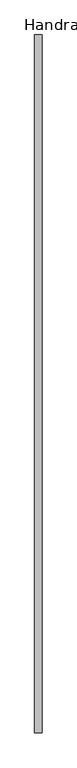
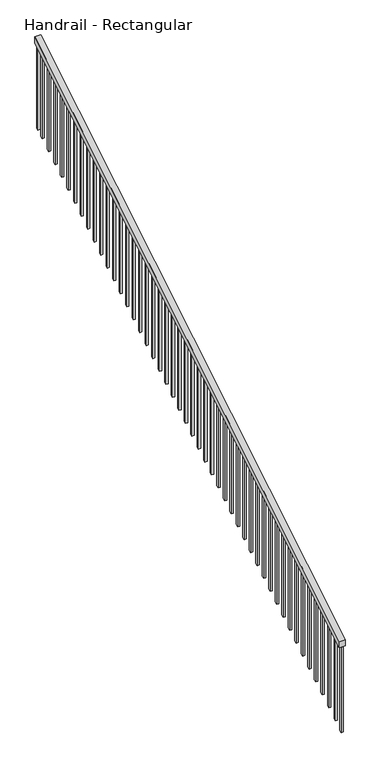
"""IFC4 building model written with IfcOpenShell, lengths in millimetres: railing geometry, Handrail - Rectangular."""

from ifc_helpers import new_model, si_unit, frame, origin, place, context, project, spatial, polyline, outline, extrude, source, transform, mapped, element, save


def handrail_rectangular_7fb33515(model_context):
    return source(origin(), model_context, "Body", "SweptSolid", [
        extrude(outline(polyline([(-7727.6411799, 1024.3318731), (-7727.6411799, 1083.7333333), (-2977.8411799, 3962.4), (-2977.8411799, 3902.9985397), (-7727.6411799, 1024.3318731)])), frame((-1190.9500398, 0.0, 0.0), z_axis=(1.0, 0.0, 0.0), x_axis=(0.0, 1.0, 0.0)), (0.0, 0.0, 1.0), 50.8),
        extrude(outline(polyline([(-3063.5661799, 3851.0439943), (-3044.5161799, 3862.5894488), (-3044.5161799, 3050.3720877), (-3063.5661799, 3038.8266332), (-3063.5661799, 3851.0439943)])), frame((-1175.0750398, 0.0, 0.0), z_axis=(1.0, 0.0, 0.0), x_axis=(0.0, 1.0, 0.0)), (0.0, 0.0, 1.0), 19.05),
        extrude(outline(polyline([(-3165.1661799, 3789.4682367), (-3146.1161799, 3801.0136913), (-3146.1161799, 2988.7963301), (-3165.1661799, 2977.2508756), (-3165.1661799, 3789.4682367)])), frame((-1175.0750398, 0.0, 0.0), z_axis=(1.0, 0.0, 0.0), x_axis=(0.0, 1.0, 0.0)), (0.0, 0.0, 1.0), 19.05),
        extrude(outline(polyline([(-3266.7661799, 3727.8924791), (-3247.7161799, 3739.4379337), (-3247.7161799, 2927.2205726), (-3266.7661799, 2915.675118), (-3266.7661799, 3727.8924791)])), frame((-1175.0750398, 0.0, 0.0), z_axis=(1.0, 0.0, 0.0), x_axis=(0.0, 1.0, 0.0)), (0.0, 0.0, 1.0), 19.05),
        extrude(outline(polyline([(-3368.3661799, 3666.3167216), (-3349.3161799, 3677.8621761), (-3349.3161799, 2865.644815), (-3368.3661799, 2854.0993604), (-3368.3661799, 3666.3167216)])), frame((-1175.0750398, 0.0, 0.0), z_axis=(1.0, 0.0, 0.0), x_axis=(0.0, 1.0, 0.0)), (0.0, 0.0, 1.0), 19.05),
        extrude(outline(polyline([(-3469.9661799, 3604.740964), (-3450.9161799, 3616.2864185), (-3450.9161799, 2804.0690574), (-3469.9661799, 2792.5236029), (-3469.9661799, 3604.740964)])), frame((-1175.0750398, 0.0, 0.0), z_axis=(1.0, 0.0, 0.0), x_axis=(0.0, 1.0, 0.0)), (0.0, 0.0, 1.0), 19.05),
        extrude(outline(polyline([(-3571.5661799, 3543.1652064), (-3552.5161799, 3554.710661), (-3552.5161799, 2742.4932998), (-3571.5661799, 2730.9478453), (-3571.5661799, 3543.1652064)])), frame((-1175.0750398, 0.0, 0.0), z_axis=(1.0, 0.0, 0.0), x_axis=(0.0, 1.0, 0.0)), (0.0, 0.0, 1.0), 19.05),
        extrude(outline(polyline([(-3673.1661799, 3481.5894488), (-3654.1161799, 3493.1349034), (-3654.1161799, 2680.9175423), (-3673.1661799, 2669.3720877), (-3673.1661799, 3481.5894488)])), frame((-1175.0750398, 0.0, 0.0), z_axis=(1.0, 0.0, 0.0), x_axis=(0.0, 1.0, 0.0)), (0.0, 0.0, 1.0), 19.05),
        extrude(outline(polyline([(-3774.7661799, 3420.0136913), (-3755.7161799, 3431.5591458), (-3755.7161799, 2619.3417847), (-3774.7661799, 2607.7963301), (-3774.7661799, 3420.0136913)])), frame((-1175.0750398, 0.0, 0.0), z_axis=(1.0, 0.0, 0.0), x_axis=(0.0, 1.0, 0.0)), (0.0, 0.0, 1.0), 19.05),
        extrude(outline(polyline([(-3876.3661799, 3358.4379337), (-3857.3161799, 3369.9833882), (-3857.3161799, 2557.7660271), (-3876.3661799, 2546.2205726), (-3876.3661799, 3358.4379337)])), frame((-1175.0750398, 0.0, 0.0), z_axis=(1.0, 0.0, 0.0), x_axis=(0.0, 1.0, 0.0)), (0.0, 0.0, 1.0), 19.05),
        extrude(outline(polyline([(-3977.9661799, 3296.8621761), (-3958.9161799, 3308.4076307), (-3958.9161799, 2496.1902695), (-3977.9661799, 2484.644815), (-3977.9661799, 3296.8621761)])), frame((-1175.0750398, 0.0, 0.0), z_axis=(1.0, 0.0, 0.0), x_axis=(0.0, 1.0, 0.0)), (0.0, 0.0, 1.0), 19.05),
        extrude(outline(polyline([(-4079.5661799, 3235.2864185), (-4060.5161799, 3246.8318731), (-4060.5161799, 2434.614512), (-4079.5661799, 2423.0690574), (-4079.5661799, 3235.2864185)])), frame((-1175.0750398, 0.0, 0.0), z_axis=(1.0, 0.0, 0.0), x_axis=(0.0, 1.0, 0.0)), (0.0, 0.0, 1.0), 19.05),
        extrude(outline(polyline([(-4181.1661799, 3173.710661), (-4162.1161799, 3185.2561155), (-4162.1161799, 2373.0387544), (-4181.1661799, 2361.4932998), (-4181.1661799, 3173.710661)])), frame((-1175.0750398, 0.0, 0.0), z_axis=(1.0, 0.0, 0.0), x_axis=(0.0, 1.0, 0.0)), (0.0, 0.0, 1.0), 19.05),
        extrude(outline(polyline([(-4282.7661799, 3112.1349034), (-4263.7161799, 3123.6803579), (-4263.7161799, 2311.4629968), (-4282.7661799, 2299.9175423), (-4282.7661799, 3112.1349034)])), frame((-1175.0750398, 0.0, 0.0), z_axis=(1.0, 0.0, 0.0), x_axis=(0.0, 1.0, 0.0)), (0.0, 0.0, 1.0), 19.05),
        extrude(outline(polyline([(-4384.3661799, 3050.5591458), (-4365.3161799, 3062.1046004), (-4365.3161799, 2249.8872392), (-4384.3661799, 2238.3417847), (-4384.3661799, 3050.5591458)])), frame((-1175.0750398, 0.0, 0.0), z_axis=(1.0, 0.0, 0.0), x_axis=(0.0, 1.0, 0.0)), (0.0, 0.0, 1.0), 19.05),
        extrude(outline(polyline([(-4485.9661799, 2988.9833882), (-4466.9161799, 3000.5288428), (-4466.9161799, 2188.3114817), (-4485.9661799, 2176.7660271), (-4485.9661799, 2988.9833882)])), frame((-1175.0750398, 0.0, 0.0), z_axis=(1.0, 0.0, 0.0), x_axis=(0.0, 1.0, 0.0)), (0.0, 0.0, 1.0), 19.05),
        extrude(outline(polyline([(-4587.5661799, 2927.4076307), (-4568.5161799, 2938.9530852), (-4568.5161799, 2126.7357241), (-4587.5661799, 2115.1902695), (-4587.5661799, 2927.4076307)])), frame((-1175.0750398, 0.0, 0.0), z_axis=(1.0, 0.0, 0.0), x_axis=(0.0, 1.0, 0.0)), (0.0, 0.0, 1.0), 19.05),
        extrude(outline(polyline([(-4689.1661799, 2865.8318731), (-4670.1161799, 2877.3773276), (-4670.1161799, 2065.1599665), (-4689.1661799, 2053.614512), (-4689.1661799, 2865.8318731)])), frame((-1175.0750398, 0.0, 0.0), z_axis=(1.0, 0.0, 0.0), x_axis=(0.0, 1.0, 0.0)), (0.0, 0.0, 1.0), 19.05),
        extrude(outline(polyline([(-4790.7661799, 2804.2561155), (-4771.7161799, 2815.80157), (-4771.7161799, 2003.5842089), (-4790.7661799, 1992.0387544), (-4790.7661799, 2804.2561155)])), frame((-1175.0750398, 0.0, 0.0), z_axis=(1.0, 0.0, 0.0), x_axis=(0.0, 1.0, 0.0)), (0.0, 0.0, 1.0), 19.05),
        extrude(outline(polyline([(-4892.3661799, 2742.6803579), (-4873.3161799, 2754.2258125), (-4873.3161799, 1942.0084514), (-4892.3661799, 1930.4629968), (-4892.3661799, 2742.6803579)])), frame((-1175.0750398, 0.0, 0.0), z_axis=(1.0, 0.0, 0.0), x_axis=(0.0, 1.0, 0.0)), (0.0, 0.0, 1.0), 19.05),
        extrude(outline(polyline([(-4993.9661799, 2681.1046004), (-4974.9161799, 2692.6500549), (-4974.9161799, 1880.4326938), (-4993.9661799, 1868.8872392), (-4993.9661799, 2681.1046004)])), frame((-1175.0750398, 0.0, 0.0), z_axis=(1.0, 0.0, 0.0), x_axis=(0.0, 1.0, 0.0)), (0.0, 0.0, 1.0), 19.05),
        extrude(outline(polyline([(-5095.5661799, 2619.5288428), (-5076.5161799, 2631.0742973), (-5076.5161799, 1818.8569362), (-5095.5661799, 1807.3114817), (-5095.5661799, 2619.5288428)])), frame((-1175.0750398, 0.0, 0.0), z_axis=(1.0, 0.0, 0.0), x_axis=(0.0, 1.0, 0.0)), (0.0, 0.0, 1.0), 19.05),
        extrude(outline(polyline([(-5197.1661799, 2557.9530852), (-5178.1161799, 2569.4985397), (-5178.1161799, 1757.2811786), (-5197.1661799, 1745.7357241), (-5197.1661799, 2557.9530852)])), frame((-1175.0750398, 0.0, 0.0), z_axis=(1.0, 0.0, 0.0), x_axis=(0.0, 1.0, 0.0)), (0.0, 0.0, 1.0), 19.05),
        extrude(outline(polyline([(-5298.7661799, 2496.3773276), (-5279.7161799, 2507.9227822), (-5279.7161799, 1695.7054211), (-5298.7661799, 1684.1599665), (-5298.7661799, 2496.3773276)])), frame((-1175.0750398, 0.0, 0.0), z_axis=(1.0, 0.0, 0.0), x_axis=(0.0, 1.0, 0.0)), (0.0, 0.0, 1.0), 19.05),
        extrude(outline(polyline([(-5400.3661799, 2434.80157), (-5381.3161799, 2446.3470246), (-5381.3161799, 1634.1296635), (-5400.3661799, 1622.5842089), (-5400.3661799, 2434.80157)])), frame((-1175.0750398, 0.0, 0.0), z_axis=(1.0, 0.0, 0.0), x_axis=(0.0, 1.0, 0.0)), (0.0, 0.0, 1.0), 19.05),
        extrude(outline(polyline([(-5501.9661799, 2373.2258125), (-5482.9161799, 2384.771267), (-5482.9161799, 1572.5539059), (-5501.9661799, 1561.0084514), (-5501.9661799, 2373.2258125)])), frame((-1175.0750398, 0.0, 0.0), z_axis=(1.0, 0.0, 0.0), x_axis=(0.0, 1.0, 0.0)), (0.0, 0.0, 1.0), 19.05),
        extrude(outline(polyline([(-5603.5661799, 2311.6500549), (-5584.5161799, 2323.1955094), (-5584.5161799, 1510.9781483), (-5603.5661799, 1499.4326938), (-5603.5661799, 2311.6500549)])), frame((-1175.0750398, 0.0, 0.0), z_axis=(1.0, 0.0, 0.0), x_axis=(0.0, 1.0, 0.0)), (0.0, 0.0, 1.0), 19.05),
        extrude(outline(polyline([(-5705.1661799, 2250.0742973), (-5686.1161799, 2261.6197519), (-5686.1161799, 1449.4023907), (-5705.1661799, 1437.8569362), (-5705.1661799, 2250.0742973)])), frame((-1175.0750398, 0.0, 0.0), z_axis=(1.0, 0.0, 0.0), x_axis=(0.0, 1.0, 0.0)), (0.0, 0.0, 1.0), 19.05),
        extrude(outline(polyline([(-5806.7661799, 2188.4985397), (-5787.7161799, 2200.0439943), (-5787.7161799, 1387.8266332), (-5806.7661799, 1376.2811786), (-5806.7661799, 2188.4985397)])), frame((-1175.0750398, 0.0, 0.0), z_axis=(1.0, 0.0, 0.0), x_axis=(0.0, 1.0, 0.0)), (0.0, 0.0, 1.0), 19.05),
        extrude(outline(polyline([(-5908.3661799, 2126.9227822), (-5889.3161799, 2138.4682367), (-5889.3161799, 1326.2508756), (-5908.3661799, 1314.7054211), (-5908.3661799, 2126.9227822)])), frame((-1175.0750398, 0.0, 0.0), z_axis=(1.0, 0.0, 0.0), x_axis=(0.0, 1.0, 0.0)), (0.0, 0.0, 1.0), 19.05),
        extrude(outline(polyline([(-6009.9661799, 2065.3470246), (-5990.9161799, 2076.8924791), (-5990.9161799, 1264.675118), (-6009.9661799, 1253.1296635), (-6009.9661799, 2065.3470246)])), frame((-1175.0750398, 0.0, 0.0), z_axis=(1.0, 0.0, 0.0), x_axis=(0.0, 1.0, 0.0)), (0.0, 0.0, 1.0), 19.05),
        extrude(outline(polyline([(-6111.5661799, 2003.771267), (-6092.5161799, 2015.3167216), (-6092.5161799, 1203.0993604), (-6111.5661799, 1191.5539059), (-6111.5661799, 2003.771267)])), frame((-1175.0750398, 0.0, 0.0), z_axis=(1.0, 0.0, 0.0), x_axis=(0.0, 1.0, 0.0)), (0.0, 0.0, 1.0), 19.05),
        extrude(outline(polyline([(-6213.1661799, 1942.1955094), (-6194.1161799, 1953.740964), (-6194.1161799, 1141.5236029), (-6213.1661799, 1129.9781483), (-6213.1661799, 1942.1955094)])), frame((-1175.0750398, 0.0, 0.0), z_axis=(1.0, 0.0, 0.0), x_axis=(0.0, 1.0, 0.0)), (0.0, 0.0, 1.0), 19.05),
        extrude(outline(polyline([(-6314.7661799, 1880.6197519), (-6295.7161799, 1892.1652064), (-6295.7161799, 1079.9478453), (-6314.7661799, 1068.4023907), (-6314.7661799, 1880.6197519)])), frame((-1175.0750398, 0.0, 0.0), z_axis=(1.0, 0.0, 0.0), x_axis=(0.0, 1.0, 0.0)), (0.0, 0.0, 1.0), 19.05),
        extrude(outline(polyline([(-6416.3661799, 1819.0439943), (-6397.3161799, 1830.5894488), (-6397.3161799, 1018.3720877), (-6416.3661799, 1006.8266332), (-6416.3661799, 1819.0439943)])), frame((-1175.0750398, 0.0, 0.0), z_axis=(1.0, 0.0, 0.0), x_axis=(0.0, 1.0, 0.0)), (0.0, 0.0, 1.0), 19.05),
        extrude(outline(polyline([(-6517.9661799, 1757.4682367), (-6498.9161799, 1769.0136913), (-6498.9161799, 956.7963301), (-6517.9661799, 945.2508756), (-6517.9661799, 1757.4682367)])), frame((-1175.0750398, 0.0, 0.0), z_axis=(1.0, 0.0, 0.0), x_axis=(0.0, 1.0, 0.0)), (0.0, 0.0, 1.0), 19.05),
        extrude(outline(polyline([(-6619.5661799, 1695.8924791), (-6600.5161799, 1707.4379337), (-6600.5161799, 895.2205726), (-6619.5661799, 883.675118), (-6619.5661799, 1695.8924791)])), frame((-1175.0750398, 0.0, 0.0), z_axis=(1.0, 0.0, 0.0), x_axis=(0.0, 1.0, 0.0)), (0.0, 0.0, 1.0), 19.05),
        extrude(outline(polyline([(-6721.1661799, 1634.3167216), (-6702.1161799, 1645.8621761), (-6702.1161799, 833.644815), (-6721.1661799, 822.0993604), (-6721.1661799, 1634.3167216)])), frame((-1175.0750398, 0.0, 0.0), z_axis=(1.0, 0.0, 0.0), x_axis=(0.0, 1.0, 0.0)), (0.0, 0.0, 1.0), 19.05),
        extrude(outline(polyline([(-6822.7661799, 1572.740964), (-6803.7161799, 1584.2864185), (-6803.7161799, 772.0690574), (-6822.7661799, 760.5236029), (-6822.7661799, 1572.740964)])), frame((-1175.0750398, 0.0, 0.0), z_axis=(1.0, 0.0, 0.0), x_axis=(0.0, 1.0, 0.0)), (0.0, 0.0, 1.0), 19.05),
        extrude(outline(polyline([(-6924.3661799, 1511.1652064), (-6905.3161799, 1522.710661), (-6905.3161799, 710.4932998), (-6924.3661799, 698.9478453), (-6924.3661799, 1511.1652064)])), frame((-1175.0750398, 0.0, 0.0), z_axis=(1.0, 0.0, 0.0), x_axis=(0.0, 1.0, 0.0)), (0.0, 0.0, 1.0), 19.05),
        extrude(outline(polyline([(-7025.9661799, 1449.5894488), (-7006.9161799, 1461.1349034), (-7006.9161799, 648.9175423), (-7025.9661799, 637.3720877), (-7025.9661799, 1449.5894488)])), frame((-1175.0750398, 0.0, 0.0), z_axis=(1.0, 0.0, 0.0), x_axis=(0.0, 1.0, 0.0)), (0.0, 0.0, 1.0), 19.05),
        extrude(outline(polyline([(-7127.5661799, 1388.0136913), (-7108.5161799, 1399.5591458), (-7108.5161799, 587.3417847), (-7127.5661799, 575.7963301), (-7127.5661799, 1388.0136913)])), frame((-1175.0750398, 0.0, 0.0), z_axis=(1.0, 0.0, 0.0), x_axis=(0.0, 1.0, 0.0)), (0.0, 0.0, 1.0), 19.05),
        extrude(outline(polyline([(-7229.1661799, 1326.4379337), (-7210.1161799, 1337.9833882), (-7210.1161799, 525.7660271), (-7229.1661799, 514.2205726), (-7229.1661799, 1326.4379337)])), frame((-1175.0750398, 0.0, 0.0), z_axis=(1.0, 0.0, 0.0), x_axis=(0.0, 1.0, 0.0)), (0.0, 0.0, 1.0), 19.05),
        extrude(outline(polyline([(-7330.7661799, 1264.8621761), (-7311.7161799, 1276.4076307), (-7311.7161799, 464.1902695), (-7330.7661799, 452.644815), (-7330.7661799, 1264.8621761)])), frame((-1175.0750398, 0.0, 0.0), z_axis=(1.0, 0.0, 0.0), x_axis=(0.0, 1.0, 0.0)), (0.0, 0.0, 1.0), 19.05),
        extrude(outline(polyline([(-7432.3661799, 1203.2864185), (-7413.3161799, 1214.8318731), (-7413.3161799, 402.614512), (-7432.3661799, 391.0690574), (-7432.3661799, 1203.2864185)])), frame((-1175.0750398, 0.0, 0.0), z_axis=(1.0, 0.0, 0.0), x_axis=(0.0, 1.0, 0.0)), (0.0, 0.0, 1.0), 19.05),
        extrude(outline(polyline([(-7533.9661799, 1141.710661), (-7514.9161799, 1153.2561155), (-7514.9161799, 341.0387544), (-7533.9661799, 329.4932998), (-7533.9661799, 1141.710661)])), frame((-1175.0750398, 0.0, 0.0), z_axis=(1.0, 0.0, 0.0), x_axis=(0.0, 1.0, 0.0)), (0.0, 0.0, 1.0), 19.05),
        extrude(outline(polyline([(-7635.5661799, 1080.1349034), (-7616.5161799, 1091.6803579), (-7616.5161799, 279.4629968), (-7635.5661799, 267.9175423), (-7635.5661799, 1080.1349034)])), frame((-1175.0750398, 0.0, 0.0), z_axis=(1.0, 0.0, 0.0), x_axis=(0.0, 1.0, 0.0)), (0.0, 0.0, 1.0), 19.05),
        extrude(outline(polyline([(-2996.8911799, 3891.4530852), (-2977.8411799, 3902.9985397), (-2977.8411799, 3090.7811786), (-2996.8911799, 3079.2357241), (-2996.8911799, 3891.4530852)])), frame((-1175.0750398, 0.0, 0.0), z_axis=(1.0, 0.0, 0.0), x_axis=(0.0, 1.0, 0.0)), (0.0, 0.0, 1.0), 19.05),
        extrude(outline(polyline([(-7727.6411799, 1024.3318731), (-7708.5911799, 1035.8773276), (-7708.5911799, 223.6599665), (-7727.6411799, 212.114512), (-7727.6411799, 1024.3318731)])), frame((-1175.0750398, 0.0, 0.0), z_axis=(1.0, 0.0, 0.0), x_axis=(0.0, 1.0, 0.0)), (0.0, 0.0, 1.0), 19.05),
    ])


if __name__ == "__main__":
    model = new_model("IFC4")
    model_context = context("Model", 3, world=origin())
    ifc_project = project(units=[si_unit("LENGTHUNIT", "METRE", prefix="MILLI")], contexts=[model_context])
    site = spatial("IfcSite", under=ifc_project)
    building = spatial("IfcBuilding", under=site)
    placement = place(None, origin())
    handrail_rectangular_shape = handrail_rectangular_7fb33515(model_context)
    element("IfcRailing", 1, ObjectType="Handrail - Rectangular", at=placement, inside=building, context=model_context, shape_type="MappedRepresentation", body=[
        mapped(handrail_rectangular_shape, transform((0.0, 0.0, 0.0), x_axis=(1.0, 0.0, 0.0), y_axis=(0.0, 1.0, 0.0), z_axis=(0.0, 0.0, 1.0))),
    ])
    save(model, "model.ifc")
